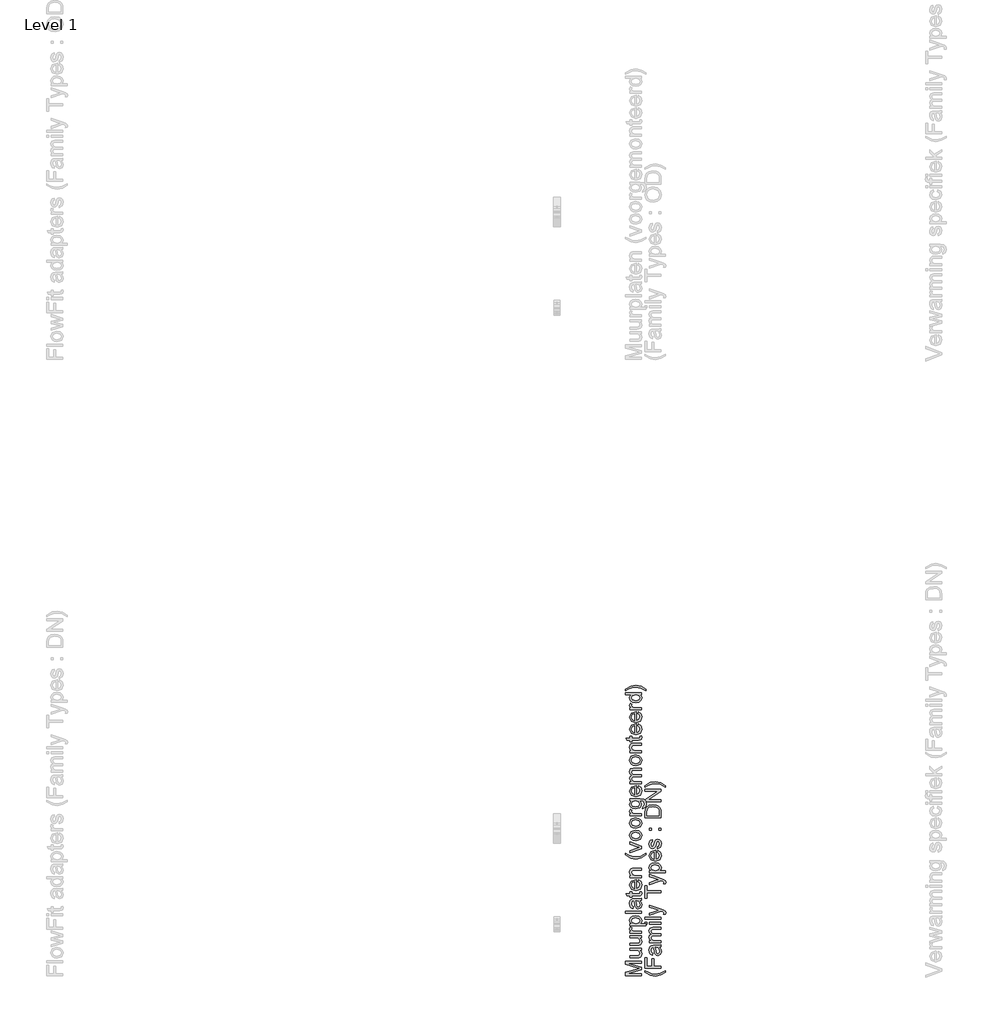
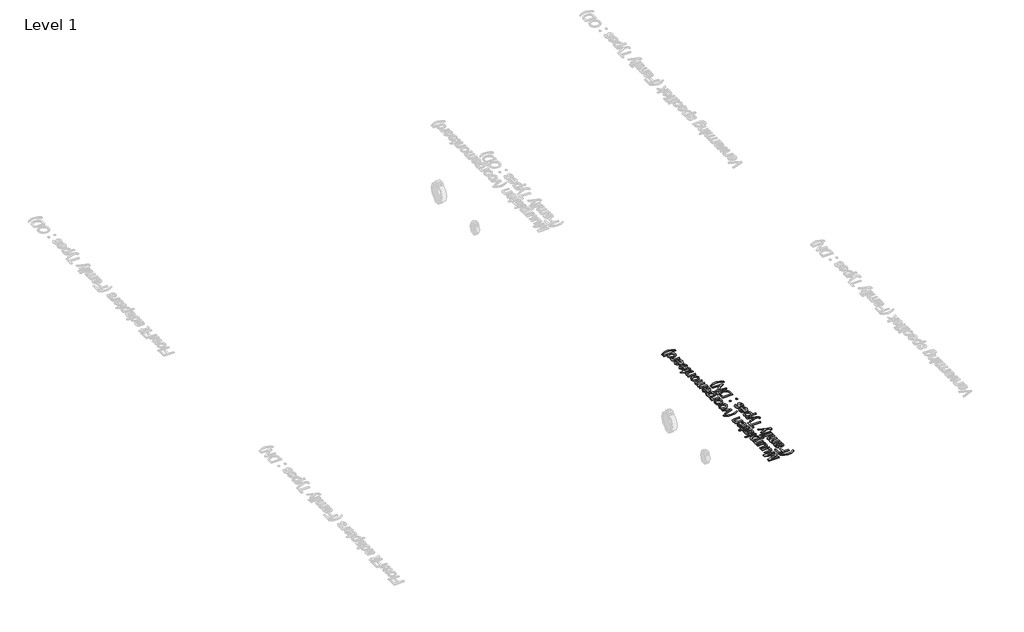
# One storey, part 4 of 11: 1 proxy.
"""IFC4 building model written with IfcOpenShell, lengths in millimetres."""

import ifcopenshell
import ifcopenshell.guid

model = None  # the IFC model being written
_history = None  # IfcOwnerHistory: only IFC2X3 demands one
_inside = {}  # id of a spatial element -> (the spatial element, [elements in it])
_under = {}  # id of a project, library or spatial element -> (it, [spatial elements below it])
_declared = {}  # id of a project -> (the project, [libraries it declares])
_typed = {}  # id of a type object -> (the type object, [elements of that type])
_made_of = {}  # id of a material, layer set ... -> (it, [elements and type objects made of it])


def new_model(schema):
    """Start an empty IFC model of exactly this schema.

    Asked for "IFC4X3", IfcOpenShell would pick the latest addendum, in which some entities
    have other attributes; the version numbers below select the first issue.
    IFC2X3 requires an IfcOwnerHistory on every rooted entity: one is made here for all.
    """
    global model, _history
    if schema == "IFC4X3":
        model = ifcopenshell.file(schema_version=(4, 3, 0, 0))
    else:
        model = ifcopenshell.file(schema=schema)
    _inside.clear()
    _under.clear()
    _declared.clear()
    _typed.clear()
    _made_of.clear()
    _history = None
    if model.schema == "IFC2X3":
        org = make("IfcOrganization", Name="unknown")
        user = make(
            "IfcPersonAndOrganization",
            ThePerson=make("IfcPerson", FamilyName="unknown"),
            TheOrganization=org,
        )
        app = make(
            "IfcApplication",
            ApplicationDeveloper=org,
            Version="unknown",
            ApplicationFullName="unknown",
            ApplicationIdentifier="unknown",
        )
        _history = make(
            "IfcOwnerHistory",
            OwningUser=user,
            OwningApplication=app,
            ChangeAction="ADDED",
            CreationDate=0,
        )
    return model


def make(cls, **values):
    """One entity of the class cls with the attributes given. An attribute that is None is left unset."""
    return model.create_entity(
        cls, **{name: value for name, value in values.items() if value is not None}
    )


def rooted(cls, **values):
    """An entity with a GlobalId (a new one), such as an element, a storey or a relation."""
    return make(cls, GlobalId=ifcopenshell.guid.new(), OwnerHistory=_history, **values)


def si_unit(unit_type, name, prefix=None):
    """IfcSIUnit, for example si_unit("LENGTHUNIT", "METRE", prefix="MILLI")."""
    return make("IfcSIUnit", UnitType=unit_type, Prefix=prefix, Name=name)


def assignment(units):
    """IfcUnitAssignment: the units of a project."""
    return None if units is None else make("IfcUnitAssignment", Units=units)


def point(xyz):
    """IfcCartesianPoint."""
    return None if xyz is None else make("IfcCartesianPoint", Coordinates=xyz)


def direction(xyz):
    """IfcDirection."""
    return None if xyz is None else make("IfcDirection", DirectionRatios=xyz)


def frame(location, z_axis=None, x_axis=None):
    """IfcAxis2Placement3D, a coordinate frame: its origin and axes. An axis left out is left unset."""
    return make(
        "IfcAxis2Placement3D",
        Location=point(location),
        Axis=direction(z_axis),
        RefDirection=direction(x_axis),
    )


def origin():
    """The frame at (0, 0, 0) with its axes left unset."""
    return frame((0.0, 0.0, 0.0))


def origin_with_axes():
    """The frame at (0, 0, 0) with the z axis (0, 0, 1) and the x axis (1, 0, 0) written out."""
    return frame((0.0, 0.0, 0.0), z_axis=(0.0, 0.0, 1.0), x_axis=(1.0, 0.0, 0.0))


def place(relative_to, where):
    """IfcLocalPlacement: puts the frame where relative to a parent placement (None: the world)."""
    return make(
        "IfcLocalPlacement", PlacementRelTo=relative_to, RelativePlacement=where
    )


def context(
    kind, dimensions, precision=None, world=None, true_north=None, identifier=None
):
    """IfcGeometricRepresentationContext, for example the 3D "Model" context."""
    return make(
        "IfcGeometricRepresentationContext",
        ContextIdentifier=identifier,
        ContextType=kind,
        CoordinateSpaceDimension=dimensions,
        Precision=precision,
        WorldCoordinateSystem=world,
        TrueNorth=true_north,
    )


def project(units=None, contexts=None):
    """IfcProject with its units and contexts."""
    return rooted(
        "IfcProject",
        Name="project",
        RepresentationContexts=contexts,
        UnitsInContext=assignment(units),
    )


def spatial(cls, under=None, at=None, **own):
    """A site, building, storey or space (cls), placed at a placement, below another one or the project."""
    s = rooted(cls, ObjectPlacement=at, **own)
    if under is not None:
        _under.setdefault(under.id(), (under, []))[1].append(s)
    return s


def polyline(points):
    """IfcPolyline through the points."""
    return make("IfcPolyline", Points=[point(p) for p in points])


def outline(outer, holes=None, kind="AREA"):
    """IfcArbitraryClosedProfileDef: a profile drawn as a closed curve; with holes, ...WithVoids."""
    if holes is None:
        return make("IfcArbitraryClosedProfileDef", ProfileType=kind, OuterCurve=outer)
    return make(
        "IfcArbitraryProfileDefWithVoids",
        ProfileType=kind,
        OuterCurve=outer,
        InnerCurves=holes,
    )


def extrude(swept, where, along, depth):
    """IfcExtrudedAreaSolid: the profile swept, set in the frame where, extruded along a direction by depth."""
    return make(
        "IfcExtrudedAreaSolid",
        SweptArea=swept,
        Position=where,
        ExtrudedDirection=direction(along),
        Depth=depth,
    )


def shape(context_of_items, identifier, shape_type, items):
    """IfcShapeRepresentation: the items that make up one representation, for example the "Body"."""
    return make(
        "IfcShapeRepresentation",
        ContextOfItems=context_of_items,
        RepresentationIdentifier=identifier,
        RepresentationType=shape_type,
        Items=items,
    )


def made_of(thing, what):
    """Note that an element or type object is made of a material, layer set ...; save() writes the relation."""
    if what is not None:
        _made_of.setdefault(what.id(), (what, []))[1].append(thing)
    return thing


def element(
    cls,
    number,
    at=None,
    inside=None,
    cuts=None,
    type_object=None,
    material=None,
    context=None,
    identifier="Body",
    shape_type=None,
    held_by="IfcProductDefinitionShape",
    body=None,
    shapes=None,
    **own,
):
    """One element of the class cls, such as IfcWall. Its Tag is "e" and its number.

    at: its placement. inside: the storey or other place that contains it. cuts: it is an
    opening in that element (IfcRelVoidsElement). A single representation is given by context,
    identifier, shape_type and body (its items); several are given by shapes. held_by: the class
    of the entity that holds the representations. save() writes the other relations.
    """
    e = rooted(cls, Tag="e%d" % number, ObjectPlacement=at, **own)
    if body is not None:
        shapes = [shape(context, identifier, shape_type, body)]
    if shapes is not None:
        e.Representation = make(held_by, Representations=shapes)
    if inside is not None:
        _inside.setdefault(inside.id(), (inside, []))[1].append(e)
    if cuts is not None:
        rooted(
            "IfcRelVoidsElement", RelatingBuildingElement=cuts, RelatedOpeningElement=e
        )
    if type_object is not None:
        _typed.setdefault(type_object.id(), (type_object, []))[1].append(e)
    return made_of(e, material)


def aggregate(whole, parts):
    """IfcRelAggregates: a whole, such as a stair, and the parts it consists of."""
    return rooted("IfcRelAggregates", RelatingObject=whole, RelatedObjects=parts)


def save(model, path):
    """Write the relations noted so far, then the file.

    IfcRelAggregates (storeys below a building ...), IfcRelContainedInSpatialStructure (elements
    in a storey), IfcRelDefinesByType, IfcRelAssociatesMaterial and IfcRelDeclares: one each for
    every whole, place, type object, material and project.
    """
    for whole, parts in _under.values():
        aggregate(whole, parts)
    for where, things in _inside.values():
        rooted(
            "IfcRelContainedInSpatialStructure",
            RelatedElements=things,
            RelatingStructure=where,
        )
    for kind, things in _typed.values():
        rooted("IfcRelDefinesByType", RelatedObjects=things, RelatingType=kind)
    for what, things in _made_of.values():
        rooted("IfcRelAssociatesMaterial", RelatedObjects=things, RelatingMaterial=what)
    for by, libraries in _declared.values():
        rooted("IfcRelDeclares", RelatingContext=by, RelatedDefinitions=libraries)
    model.write(path)


model = new_model("IFC4")

# Units and contexts
model_context = context("Model", 3, world=origin())
ifc_project = project(units=[si_unit("LENGTHUNIT", "METRE", prefix="MILLI")], contexts=[model_context])

# Site, building, storey
site = spatial("IfcSite", under=ifc_project)
building = spatial("IfcBuilding", under=site)
storey = spatial("IfcBuildingStorey", under=building, Name="Level 1", Elevation=0.0)

# Proxy
placement = place(None, origin())
element("IfcBuildingElementProxy", 1, Name="S", ObjectType="S", at=placement, inside=storey, context=model_context, shape_type="SweptSolid", body=[
    extrude(outline(polyline([(2565.0, 128.4123634), (2514.7718449, 128.4123634), (2514.7718449, 139.2158314), (2550.1743556, 149.4920018), (2557.5687837, 151.5644037), (2549.5612189, 153.8084838), (2514.7718449, 163.912976), (2514.7718449, 174.7164439), (2565.0, 174.7164439), (2565.0, 168.4379245), (2521.0503643, 168.4379245), (2565.0, 155.8195721), (2565.0, 147.3092353), (2521.0503643, 134.6908828), (2565.0, 134.6908828), (2565.0, 128.4123634)])), origin_with_axes(), (0.0, 0.0, 1.0), 3.0),
    extrude(outline(polyline([(2565.0, 208.4634856), (2558.6601669, 208.4634856), (2564.0036529, 203.5461296), (2565.7848149, 197.1327201), (2564.5340161, 191.2282141), (2561.3947564, 187.1569867), (2556.771706, 185.2869199), (2550.9346451, 184.9190379), (2528.1136986, 184.9190379), (2528.1136986, 191.1975573), (2547.9793264, 191.1975573), (2554.3804731, 191.577702), (2558.1390008, 194.0609055), (2559.5062955, 198.7391382), (2558.108344, 203.9814566), (2554.3007653, 207.4456787), (2547.304876, 208.4634856), (2528.1136986, 208.4634856), (2528.1136986, 214.742005), (2565.0, 214.742005), (2565.0, 208.4634856)])), origin_with_axes(), (0.0, 0.0, 1.0), 3.0),
    extrude(outline(polyline([(2565.0, 246.9194168), (2558.6601669, 246.9194168), (2564.0036529, 242.0020608), (2565.7848149, 235.5886514), (2564.5340161, 229.6841453), (2561.3947564, 225.6129179), (2556.771706, 223.7428511), (2550.9346451, 223.3749691), (2528.1136986, 223.3749691), (2528.1136986, 229.6534885), (2547.9793264, 229.6534885), (2554.3804731, 230.0336332), (2558.1390008, 232.5168367), (2559.5062955, 237.1950694), (2558.108344, 242.4373878), (2554.3007653, 245.90161), (2547.304876, 246.9194168), (2528.1136986, 246.9194168), (2528.1136986, 253.1979362), (2565.0, 253.1979362), (2565.0, 246.9194168)])), origin_with_axes(), (0.0, 0.0, 1.0), 3.0),
    extrude(outline(polyline([(2565.0, 261.8309004), (2528.1136986, 261.8309004), (2528.1136986, 267.3246048), (2533.5706149, 267.3246048), (2528.5428943, 271.224154), (2527.3288837, 275.1482286), (2529.2663955, 281.4512734), (2534.8949901, 279.3543461), (2533.6074031, 274.9397621), (2534.8459391, 271.3897009), (2538.2795044, 269.1272266), (2545.6126189, 268.1094197), (2565.0, 268.1094197), (2565.0, 261.8309004)])), origin_with_axes(), (0.0, 0.0, 1.0), 3.0),
    extrude(outline(polyline([(2579.1266686, 285.375348), (2528.1136986, 285.375348), (2528.1136986, 291.6538674), (2534.2695907, 291.6538674), (2529.0640604, 295.994875), (2527.3288837, 301.8564614), (2529.7569049, 309.8149753), (2536.59951, 315.0143741), (2546.2748064, 316.767945), (2556.4467436, 314.7875136), (2563.3751879, 309.0362917), (2565.7848149, 301.096172), (2564.1722655, 295.6331243), (2560.0949067, 291.6538674), (2579.1266686, 291.6538674), (2579.1266686, 285.375348)]), holes=[polyline([(2546.8511549, 291.6538674), (2556.4160868, 294.3700628), (2559.5062955, 300.9612819), (2556.3057222, 307.6873911), (2546.385171, 310.4894256), (2536.7957137, 307.7548361), (2533.6074031, 301.2187993), (2536.9980488, 294.5540038), (2546.8511549, 291.6538674)])]), origin_with_axes(), (0.0, 0.0, 1.0), 3.0),
    extrude(outline(polyline([(2565.0, 323.8312793), (2514.7718449, 323.8312793), (2514.7718449, 330.1097987), (2565.0, 330.1097987), (2565.0, 323.8312793)])), origin_with_axes(), (0.0, 0.0, 1.0), 3.0),
    extrude(outline(polyline([(2560.2911105, 363.0720254), (2564.5462789, 356.9835784), (2565.7848149, 350.2574693), (2562.8049708, 341.1401271), (2555.1898135, 337.9579479), (2550.2234065, 339.1596957), (2546.618163, 342.3173495), (2544.5580238, 346.7135394), (2543.6137933, 352.1459302), (2541.4555523, 363.0352372), (2535.4222876, 361.34298), (2533.6074031, 354.4022731), (2534.8152823, 348.0501773), (2539.1011075, 345.0212822), (2538.3162926, 338.7427628), (2532.184926, 341.4589582), (2528.5919452, 346.9281372), (2527.3288837, 355.2116135), (2528.4447924, 362.8206394), (2531.2468269, 367.1187274), (2535.5081267, 369.0439765), (2541.0018312, 369.3505448), (2548.8131922, 369.3505448), (2559.7208934, 369.6693759), (2565.0, 370.9201747), (2565.0, 364.6416553), (2560.2911105, 363.0720254)]), holes=[polyline([(2547.7340717, 363.0720254), (2549.6593208, 352.9430078), (2550.6771277, 347.5412739), (2552.3325966, 345.0948586), (2554.7483551, 344.2364673), (2558.1451322, 346.1065341), (2559.5062955, 351.5941072), (2558.0041107, 357.946203), (2554.3682103, 362.0419558), (2549.512168, 363.0352372), (2547.7340717, 363.0720254)])]), origin_with_axes(), (0.0, 0.0, 1.0), 3.0),
    extrude(outline(polyline([(2559.7638129, 391.3253627), (2565.183941, 392.1101776), (2565.7848149, 387.4135508), (2564.7424826, 382.1528382), (2562.0078931, 379.5286133), (2554.8832451, 378.7683239), (2534.392218, 378.7683239), (2534.392218, 374.0594343), (2528.1136986, 374.0594343), (2528.1136986, 378.7683239), (2519.1496407, 378.7683239), (2515.458558, 385.0468433), (2528.1136986, 385.0468433), (2528.1136986, 391.3253627), (2534.392218, 391.3253627), (2534.392218, 385.0468433), (2554.6993041, 385.0468433), (2557.9366657, 385.3779371), (2559.5062955, 388.5907732), (2559.7638129, 391.3253627)])), origin_with_axes(), (0.0, 0.0, 1.0), 3.0),
    extrude(outline(polyline([(2554.0125911, 423.4291981), (2554.797406, 429.5850902), (2562.9030726, 423.8277369), (2565.7848149, 413.1039768), (2560.8122766, 400.0686914), (2546.8634176, 395.2494373), (2532.4547062, 400.1177423), (2527.3288837, 412.7483575), (2532.4424434, 425.017222), (2546.8266294, 429.7812939), (2548.5188866, 429.7445057), (2548.5188866, 401.5279567), (2556.6736042, 405.1393316), (2559.5062955, 413.2266041), (2558.1941831, 419.3824962), (2554.0125911, 423.4291981)]), holes=[polyline([(2542.2403672, 401.5279567), (2542.2403672, 423.5027745), (2536.550459, 420.9889142), (2533.6074031, 412.723832), (2535.9557165, 404.9921788), (2542.2403672, 401.5279567)])]), origin_with_axes(), (0.0, 0.0, 1.0), 3.0),
    extrude(outline(polyline([(2565.0, 436.0598133), (2528.1136986, 436.0598133), (2528.1136986, 442.3383327), (2533.2640465, 442.3383327), (2528.8126744, 447.1391927), (2527.3288837, 453.6936236), (2528.5245002, 459.6226551), (2531.6637599, 463.669357), (2536.2806789, 465.5516865), (2542.3507318, 465.8827803), (2565.0, 465.8827803), (2565.0, 459.604261), (2543.1968604, 459.604261), (2537.6418423, 458.8807597), (2534.7049177, 456.3239798), (2533.6074031, 452.0136291), (2536.0722124, 445.2016808), (2545.4286779, 442.3383327), (2565.0, 442.3383327), (2565.0, 436.0598133)])), origin_with_axes(), (0.0, 0.0, 1.0), 3.0),
    extrude(outline(polyline([(2579.1266686, 506.6931563), (2564.3991261, 497.7781493), (2546.9124686, 494.1361176), (2531.6453658, 496.8584443), (2514.7718449, 506.6931563), (2514.7718449, 511.4020459), (2524.7169215, 505.5281967), (2534.3554298, 501.9965295), (2546.9492568, 500.414637), (2563.0440941, 503.1614892), (2579.1266686, 511.4020459), (2579.1266686, 506.6931563)])), origin_with_axes(), (0.0, 0.0, 1.0), 3.0),
    extrude(outline(polyline([(2565.0, 526.7304623), (2528.1136986, 513.7564907), (2528.1136986, 520.402892), (2550.2111438, 528.263304), (2557.6423601, 530.6300115), (2550.6280767, 532.9476681), (2528.1136986, 540.857131), (2528.1136986, 547.5035323), (2565.0, 534.6889762), (2565.0, 526.7304623)])), origin_with_axes(), (0.0, 0.0, 1.0), 3.0),
    extrude(outline(polyline([(2546.5568493, 551.427607), (2537.6633021, 552.7857047), (2531.4123738, 556.8599978), (2527.3288837, 567.9209831), (2532.301422, 579.7851774), (2546.0418145, 584.3898337), (2557.2131644, 582.35422), (2563.5346034, 576.4251885), (2565.7848149, 567.9209831), (2560.8306707, 555.9832123), (2546.5568493, 551.427607)]), holes=[polyline([(2546.5445866, 557.7061263), (2556.2750653, 560.6123941), (2559.5062955, 567.9209831), (2556.2566712, 575.2050466), (2546.3483828, 578.1113143), (2536.8386333, 575.1866525), (2533.6074031, 567.9209831), (2536.8263705, 560.6123941), (2546.5445866, 557.7061263)])]), origin_with_axes(), (0.0, 0.0, 1.0), 3.0),
    extrude(outline(polyline([(2546.5568493, 589.8835382), (2537.6633021, 591.2416359), (2531.4123738, 595.315929), (2527.3288837, 606.3769143), (2532.301422, 618.2411086), (2546.0418145, 622.845765), (2557.2131644, 620.8101512), (2563.5346034, 614.8811198), (2565.7848149, 606.3769143), (2560.8306707, 594.4391436), (2546.5568493, 589.8835382)]), holes=[polyline([(2546.5445866, 596.1620576), (2556.2750653, 599.0683253), (2559.5062955, 606.3769143), (2556.2566712, 613.6609778), (2546.3483828, 616.5672456), (2536.8386333, 613.6425837), (2533.6074031, 606.3769143), (2536.8263705, 599.0683253), (2546.5445866, 596.1620576)])]), origin_with_axes(), (0.0, 0.0, 1.0), 3.0),
    extrude(outline(polyline([(2565.0, 629.9090993), (2528.1136986, 629.9090993), (2528.1136986, 635.4028037), (2533.5706149, 635.4028037), (2528.5428943, 639.3023529), (2527.3288837, 643.2264275), (2529.2663955, 649.5294723), (2534.8949901, 647.432545), (2533.6074031, 643.017961), (2534.8459391, 639.4678998), (2538.2795044, 637.2054255), (2545.6126189, 636.1876186), (2565.0, 636.1876186), (2565.0, 629.9090993)])), origin_with_axes(), (0.0, 0.0, 1.0), 3.0),
    extrude(outline(polyline([(2568.1392597, 651.8839171), (2568.9240746, 658.1624365), (2572.2350126, 660.1980502), (2573.6329642, 666.2926286), (2572.0510716, 672.7183008), (2567.6119622, 675.7839841), (2560.2911105, 676.2131797), (2565.0, 666.4029932), (2563.6296396, 659.9298029), (2559.5185583, 655.1028846), (2546.3729083, 651.0991022), (2536.6424295, 652.8955926), (2529.7569049, 658.0949915), (2527.3288837, 666.0964249), (2532.8225882, 676.2131797), (2528.1136986, 676.2131797), (2528.1136986, 682.4916991), (2559.9600167, 682.4916991), (2572.1553048, 680.7749165), (2577.8268189, 675.3363943), (2579.9114835, 666.1700013), (2576.9745589, 655.728284), (2568.1392597, 651.8839171)]), holes=[polyline([(2545.9437126, 657.3776216), (2555.6619287, 660.0570288), (2558.7214806, 666.7831379), (2555.6803228, 673.4969843), (2546.1276536, 676.2131797), (2536.7650569, 673.4172766), (2533.6074031, 666.685036), (2536.7160059, 660.093817), (2545.9437126, 657.3776216)])]), origin_with_axes(), (0.0, 0.0, 1.0), 3.0),
    extrude(outline(polyline([(2554.0125911, 717.7347942), (2554.797406, 723.8906863), (2562.9030726, 718.1333331), (2565.7848149, 707.4095729), (2560.8122766, 694.3742875), (2546.8634176, 689.5550334), (2532.4547062, 694.4233385), (2527.3288837, 707.0539536), (2532.4424434, 719.3228182), (2546.8266294, 724.08689), (2548.5188866, 724.0501018), (2548.5188866, 695.8335528), (2556.6736042, 699.4449277), (2559.5062955, 707.5322002), (2558.1941831, 713.6880923), (2554.0125911, 717.7347942)]), holes=[polyline([(2542.2403672, 695.8335528), (2542.2403672, 717.8083706), (2536.550459, 715.2945103), (2533.6074031, 707.0294282), (2535.9557165, 699.2977749), (2542.2403672, 695.8335528)])]), origin_with_axes(), (0.0, 0.0, 1.0), 3.0),
    extrude(outline(polyline([(2565.0, 730.3654094), (2528.1136986, 730.3654094), (2528.1136986, 736.6439288), (2534.1837515, 736.6439288), (2529.2112132, 740.9604109), (2527.3288837, 747.1040402), (2529.2480014, 753.3948223), (2534.6252099, 756.8529131), (2529.1529653, 761.751875), (2527.3288837, 767.9384239), (2530.3639102, 776.1483237), (2539.7142442, 779.0239346), (2565.0, 779.0239346), (2565.0, 772.7454153), (2542.4120455, 772.7454153), (2537.1697271, 772.1629354), (2534.5884217, 770.0537453), (2533.6074031, 766.4668959), (2536.1212634, 760.2926097), (2544.1778791, 757.8339317), (2565.0, 757.8339317), (2565.0, 751.5554123), (2541.7130697, 751.5554123), (2535.6307541, 750.1022785), (2533.6074031, 745.3382066), (2534.9563037, 740.6906307), (2538.9049038, 737.600422), (2546.3974338, 736.6439288), (2565.0, 736.6439288), (2565.0, 730.3654094)])), origin_with_axes(), (0.0, 0.0, 1.0), 3.0),
    extrude(outline(polyline([(2546.5568493, 786.8720839), (2537.6633021, 788.2301816), (2531.4123738, 792.3044747), (2527.3288837, 803.36546), (2532.301422, 815.2296543), (2546.0418145, 819.8343106), (2557.2131644, 817.7986969), (2563.5346034, 811.8696654), (2565.7848149, 803.36546), (2560.8306707, 791.4276892), (2546.5568493, 786.8720839)]), holes=[polyline([(2546.5445866, 793.1506033), (2556.2750653, 796.056871), (2559.5062955, 803.36546), (2556.2566712, 810.6495235), (2546.3483828, 813.5557913), (2536.8386333, 810.6311294), (2533.6074031, 803.36546), (2536.8263705, 796.056871), (2546.5445866, 793.1506033)])]), origin_with_axes(), (0.0, 0.0, 1.0), 3.0),
    extrude(outline(polyline([(2565.0, 826.8976449), (2528.1136986, 826.8976449), (2528.1136986, 833.1761643), (2533.2640465, 833.1761643), (2528.8126744, 837.9770244), (2527.3288837, 844.5314552), (2528.5245002, 850.4604867), (2531.6637599, 854.5071887), (2536.2806789, 856.3895182), (2542.3507318, 856.720612), (2565.0, 856.720612), (2565.0, 850.4420926), (2543.1968604, 850.4420926), (2537.6418423, 849.7185914), (2534.7049177, 847.1618115), (2533.6074031, 842.8514608), (2536.0722124, 836.0395125), (2545.4286779, 833.1761643), (2565.0, 833.1761643), (2565.0, 826.8976449)])), origin_with_axes(), (0.0, 0.0, 1.0), 3.0),
    extrude(outline(polyline([(2559.7638129, 878.6954299), (2565.183941, 879.4802448), (2565.7848149, 874.783618), (2564.7424826, 869.5229055), (2562.0078931, 866.8986806), (2554.8832451, 866.1383911), (2534.392218, 866.1383911), (2534.392218, 861.4295016), (2528.1136986, 861.4295016), (2528.1136986, 866.1383911), (2519.1496407, 866.1383911), (2515.458558, 872.4169105), (2528.1136986, 872.4169105), (2528.1136986, 878.6954299), (2534.392218, 878.6954299), (2534.392218, 872.4169105), (2554.6993041, 872.4169105), (2557.9366657, 872.7480043), (2559.5062955, 875.9608404), (2559.7638129, 878.6954299)])), origin_with_axes(), (0.0, 0.0, 1.0), 3.0),
    extrude(outline(polyline([(2554.0125911, 910.7992653), (2554.797406, 916.9551574), (2562.9030726, 911.1978041), (2565.7848149, 900.474044), (2560.8122766, 887.4387586), (2546.8634176, 882.6195045), (2532.4547062, 887.4878096), (2527.3288837, 900.1184247), (2532.4424434, 912.3872893), (2546.8266294, 917.1513611), (2548.5188866, 917.1145729), (2548.5188866, 888.8980239), (2556.6736042, 892.5093988), (2559.5062955, 900.5966713), (2558.1941831, 906.7525634), (2554.0125911, 910.7992653)]), holes=[polyline([(2542.2403672, 888.8980239), (2542.2403672, 910.8728417), (2536.550459, 908.3589814), (2533.6074031, 900.0938993), (2535.9557165, 892.362246), (2542.2403672, 888.8980239)])]), origin_with_axes(), (0.0, 0.0, 1.0), 3.0),
    extrude(outline(polyline([(2554.0125911, 949.2551965), (2554.797406, 955.4110886), (2562.9030726, 949.6537354), (2565.7848149, 938.9299752), (2560.8122766, 925.8946898), (2546.8634176, 921.0754357), (2532.4547062, 925.9437408), (2527.3288837, 938.5743559), (2532.4424434, 950.8432205), (2546.8266294, 955.6072923), (2548.5188866, 955.5705041), (2548.5188866, 927.3539551), (2556.6736042, 930.96533), (2559.5062955, 939.0526025), (2558.1941831, 945.2084946), (2554.0125911, 949.2551965)]), holes=[polyline([(2542.2403672, 927.3539551), (2542.2403672, 949.3287729), (2536.550459, 946.8149126), (2533.6074031, 938.5498305), (2535.9557165, 930.8181772), (2542.2403672, 927.3539551)])]), origin_with_axes(), (0.0, 0.0, 1.0), 3.0),
    extrude(outline(polyline([(2565.0, 961.8858117), (2528.1136986, 961.8858117), (2528.1136986, 967.3795162), (2533.5706149, 967.3795162), (2528.5428943, 971.2790653), (2527.3288837, 975.2031399), (2529.2663955, 981.5061848), (2534.8949901, 979.4092574), (2533.6074031, 974.9946735), (2534.8459391, 971.4446122), (2538.2795044, 969.1821379), (2545.6126189, 968.1643311), (2565.0, 968.1643311), (2565.0, 961.8858117)])), origin_with_axes(), (0.0, 0.0, 1.0), 3.0),
    extrude(outline(polyline([(2565.0, 1008.1898922), (2559.0770999, 1008.1898922), (2564.1078862, 1004.0358913), (2565.7848149, 998.2938665), (2563.3567938, 990.5192937), (2556.5816337, 985.0255892), (2546.5936375, 983.0758146), (2536.59951, 984.872305), (2529.7201167, 990.2556449), (2527.3288837, 998.269341), (2529.039535, 1004.0573511), (2533.4847757, 1008.1898922), (2514.7718449, 1008.1898922), (2514.7718449, 1014.4684116), (2565.0, 1014.4684116), (2565.0, 1008.1898922)]), holes=[polyline([(2546.569112, 989.354334), (2556.2873281, 992.1870254), (2559.5062955, 998.870215), (2556.4344809, 1005.4736968), (2547.0473586, 1008.1898922), (2536.8570274, 1005.4246458), (2533.6074031, 998.6126976), (2536.7282687, 992.0030844), (2546.569112, 989.354334)])]), origin_with_axes(), (0.0, 0.0, 1.0), 3.0),
    extrude(outline(polyline([(2579.1266686, 1025.4558205), (2579.1266686, 1020.7469309), (2563.0440941, 1028.9874876), (2546.9492568, 1031.7343399), (2534.4657944, 1030.1524473), (2524.8150234, 1026.6575683), (2514.7718449, 1020.7469309), (2514.7718449, 1025.4558205), (2531.6453658, 1035.2905325), (2546.9124686, 1038.0128592), (2564.3991261, 1034.3524334), (2579.1266686, 1025.4558205)])), origin_with_axes(), (0.0, 0.0, 1.0), 3.0),
    extrude(outline(polyline([(2640.1140775, 140.1845873), (2625.386535, 131.2695803), (2607.8998775, 127.6275485), (2592.6327747, 130.3498753), (2575.7592538, 140.1845873), (2575.7592538, 144.8934768), (2585.7043305, 139.0196276), (2595.3428387, 135.4879605), (2607.9366657, 133.9060679), (2624.031503, 136.6529201), (2640.1140775, 144.8934768), (2640.1140775, 140.1845873)])), origin_with_axes(), (0.0, 0.0, 1.0), 3.0),
    extrude(outline(polyline([(2625.9874089, 151.9568111), (2575.7592538, 151.9568111), (2575.7592538, 185.7038528), (2582.0377732, 185.7038528), (2582.0377732, 158.2353305), (2596.9492568, 158.2353305), (2596.9492568, 181.7797782), (2603.2277762, 181.7797782), (2603.2277762, 158.2353305), (2625.9874089, 158.2353305), (2625.9874089, 151.9568111)])), origin_with_axes(), (0.0, 0.0, 1.0), 3.0),
    extrude(outline(polyline([(2621.2785194, 217.0964497), (2625.5336878, 211.0080027), (2626.7722238, 204.2818936), (2623.7923797, 195.1645515), (2616.1772224, 191.9823722), (2611.2108154, 193.1841201), (2607.6055719, 196.3417738), (2605.5454327, 200.7379637), (2604.6012023, 206.1703545), (2602.4429612, 217.0596615), (2596.4096965, 215.3674044), (2594.594812, 208.4266974), (2595.8026912, 202.0746016), (2600.0885165, 199.0457065), (2599.3037015, 192.7671871), (2593.172335, 195.4833825), (2589.5793541, 200.9525615), (2588.3162926, 209.2360378), (2589.4322013, 216.8450637), (2592.2342359, 221.1431517), (2596.4955356, 223.0684008), (2601.9892401, 223.3749691), (2609.8006011, 223.3749691), (2620.7083023, 223.6938002), (2625.9874089, 224.944599), (2625.9874089, 218.6660796), (2621.2785194, 217.0964497)]), holes=[polyline([(2608.7214806, 217.0964497), (2610.6467297, 206.9674321), (2611.6645366, 201.5656982), (2613.3200056, 199.1192829), (2615.735764, 198.2608916), (2619.1325411, 200.1309584), (2620.4937045, 205.6185315), (2618.9915196, 211.9706273), (2615.3556193, 216.0663802), (2610.4995769, 217.0596615), (2608.7214806, 217.0964497)])]), origin_with_axes(), (0.0, 0.0, 1.0), 3.0),
    extrude(outline(polyline([(2625.9874089, 232.0079333), (2589.1011075, 232.0079333), (2589.1011075, 238.2864527), (2595.1711605, 238.2864527), (2590.1986222, 242.6029347), (2588.3162926, 248.7465641), (2590.2354104, 255.0373462), (2595.6126189, 258.4954369), (2590.1403742, 263.3943988), (2588.3162926, 269.5809477), (2591.3513191, 277.7908476), (2600.7016531, 280.6664585), (2625.9874089, 280.6664585), (2625.9874089, 274.3879391), (2603.3994544, 274.3879391), (2598.157136, 273.8054593), (2595.5758307, 271.6962692), (2594.594812, 268.1094197), (2597.1086723, 261.9351336), (2605.165288, 259.4764556), (2625.9874089, 259.4764556), (2625.9874089, 253.1979362), (2602.7004786, 253.1979362), (2596.618163, 251.7448023), (2594.594812, 246.9807305), (2595.9437126, 242.3331546), (2599.8923127, 239.2429458), (2607.3848427, 238.2864527), (2625.9874089, 238.2864527), (2625.9874089, 232.0079333)])), origin_with_axes(), (0.0, 0.0, 1.0), 3.0),
    extrude(outline(polyline([(2582.0377732, 290.0842376), (2575.7592538, 290.0842376), (2575.7592538, 296.362757), (2582.0377732, 296.362757), (2582.0377732, 290.0842376)])), origin_with_axes(), (0.0, 0.0, 1.0), 3.0),
    extrude(outline(polyline([(2625.9874089, 290.0842376), (2589.1011075, 290.0842376), (2589.1011075, 296.362757), (2625.9874089, 296.362757), (2625.9874089, 290.0842376)])), origin_with_axes(), (0.0, 0.0, 1.0), 3.0),
    extrude(outline(polyline([(2625.9874089, 305.780536), (2575.7592538, 305.780536), (2575.7592538, 312.0590554), (2625.9874089, 312.0590554), (2625.9874089, 305.780536)])), origin_with_axes(), (0.0, 0.0, 1.0), 3.0),
    extrude(outline(polyline([(2640.1140775, 321.4768345), (2634.0685501, 320.6920196), (2634.6203731, 323.8803302), (2633.9275287, 326.8601744), (2631.9961482, 328.6873216), (2627.3730978, 330.4041043), (2625.8525189, 330.8946136), (2589.1011075, 317.5527599), (2589.1011075, 324.1746358), (2609.5798719, 331.2502328), (2617.7713777, 333.7150422), (2610.5363651, 336.1798516), (2589.1011075, 343.4516523), (2589.1011075, 350.0244773), (2626.8703257, 337.1853957), (2635.0618315, 333.8499323), (2639.4886781, 330.2079005), (2640.8988925, 325.31507), (2640.1140775, 321.4768345)])), origin_with_axes(), (0.0, 0.0, 1.0), 3.0),
    extrude(outline(polyline([(2625.9874089, 388.186103), (2582.0377732, 388.186103), (2582.0377732, 371.7049896), (2575.7592538, 371.7049896), (2575.7592538, 410.9457357), (2582.0377732, 410.9457357), (2582.0377732, 394.4646223), (2625.9874089, 394.4646223), (2625.9874089, 388.186103)])), origin_with_axes(), (0.0, 0.0, 1.0), 3.0),
    extrude(outline(polyline([(2640.1140775, 417.2242551), (2634.0685501, 416.4394402), (2634.6203731, 419.6277508), (2633.9275287, 422.607595), (2631.9961482, 424.4347422), (2627.3730978, 426.1515249), (2625.8525189, 426.6420342), (2589.1011075, 413.3001805), (2589.1011075, 419.9220564), (2609.5798719, 426.9976535), (2617.7713777, 429.4624628), (2610.5363651, 431.9272722), (2589.1011075, 439.199073), (2589.1011075, 445.7718979), (2626.8703257, 432.9328163), (2635.0618315, 429.5973529), (2639.4886781, 425.9553211), (2640.8988925, 421.0624906), (2640.1140775, 417.2242551)])), origin_with_axes(), (0.0, 0.0, 1.0), 3.0),
    extrude(outline(polyline([(2640.1140775, 450.9712968), (2589.1011075, 450.9712968), (2589.1011075, 457.2498162), (2595.2569996, 457.2498162), (2590.0514694, 461.5908237), (2588.3162926, 467.4524102), (2590.7443138, 475.410924), (2597.5869189, 480.6103229), (2607.2622154, 482.3638937), (2617.4341525, 480.3834623), (2624.3625968, 474.6322405), (2626.7722238, 466.6921207), (2625.1596744, 461.2290731), (2621.0823157, 457.2498162), (2640.1140775, 457.2498162), (2640.1140775, 450.9712968)]), holes=[polyline([(2607.8385638, 457.2498162), (2617.4034957, 459.9660116), (2620.4937045, 466.5572307), (2617.2931311, 473.2833398), (2607.37258, 476.0853743), (2597.7831226, 473.3507848), (2594.594812, 466.8147481), (2597.9854577, 460.1499526), (2607.8385638, 457.2498162)])]), origin_with_axes(), (0.0, 0.0, 1.0), 3.0),
    extrude(outline(polyline([(2615.0, 515.2525441), (2615.7848149, 521.4084361), (2623.8904816, 515.6510829), (2626.7722238, 504.9273228), (2621.7996855, 491.8920374), (2607.8508266, 487.0727833), (2593.4421151, 491.9410883), (2588.3162926, 504.5717035), (2593.4298523, 516.840568), (2607.8140384, 521.6046399), (2609.5062955, 521.5678517), (2609.5062955, 493.3513027), (2617.6610131, 496.9626776), (2620.4937045, 505.0499501), (2619.181592, 511.2058422), (2615.0, 515.2525441)]), holes=[polyline([(2603.2277762, 493.3513027), (2603.2277762, 515.3261205), (2597.537868, 512.8122602), (2594.594812, 504.547178), (2596.9431254, 496.8155248), (2603.2277762, 493.3513027)])]), origin_with_axes(), (0.0, 0.0, 1.0), 3.0),
    extrude(outline(polyline([(2615.0, 525.5287145), (2614.2151851, 531.8072339), (2618.8750237, 534.7135016), (2620.4937045, 541.3721658), (2619.0099137, 547.7733125), (2615.5272975, 549.8579771), (2612.7068689, 547.7610497), (2610.9165099, 541.2985894), (2607.8446952, 531.8440221), (2604.2578457, 527.7176124), (2599.1933369, 526.3135294), (2594.5151042, 527.4417009), (2590.9405175, 530.5196469), (2589.0827134, 534.5111665), (2588.3162926, 539.9129005), (2589.5486973, 547.5525833), (2592.8841607, 552.4086256), (2598.5188866, 554.5668666), (2599.3037015, 548.2883473), (2595.8394794, 545.9277711), (2594.594812, 540.4034098), (2595.7842971, 534.3946706), (2598.5556748, 532.5920488), (2600.3828221, 533.3400755), (2601.7685109, 535.6822576), (2603.1051488, 541.0901229), (2606.0604675, 550.3055669), (2609.4081937, 554.5852607), (2614.8651099, 556.1364965), (2620.8738492, 554.3154806), (2625.2332508, 549.0608995), (2626.7722238, 541.2863266), (2623.8046424, 530.3357059), (2615.0, 525.5287145)])), origin_with_axes(), (0.0, 0.0, 1.0), 3.0),
    extrude(outline(polyline([(2595.3796269, 584.3898337), (2589.1011075, 584.3898337), (2589.1011075, 590.6683531), (2595.3796269, 590.6683531), (2595.3796269, 584.3898337)])), origin_with_axes(), (0.0, 0.0, 1.0), 3.0),
    extrude(outline(polyline([(2625.9874089, 584.3898337), (2619.7088895, 584.3898337), (2619.7088895, 590.6683531), (2625.9874089, 590.6683531), (2625.9874089, 584.3898337)])), origin_with_axes(), (0.0, 0.0, 1.0), 3.0),
    extrude(outline(polyline([(2625.9874089, 622.845765), (2575.7592538, 622.845765), (2575.7592538, 640.1730069), (2576.4827551, 649.1370649), (2580.0757359, 656.5192302), (2588.6596491, 662.4666558), (2600.6035513, 664.4409559), (2610.7387002, 663.104318), (2618.0534206, 659.6707527), (2622.6090259, 655.0844905), (2625.1290176, 649.0818826), (2625.9874089, 641.0068728), (2625.9874089, 622.845765)]), holes=[polyline([(2619.7088895, 629.1242843), (2619.7088895, 640.2343206), (2618.8014473, 648.3154618), (2616.2385361, 652.9753004), (2610.0029362, 656.7951417), (2600.5054494, 658.1624365), (2588.6105982, 655.4830293), (2583.0433174, 648.9653866), (2582.0377732, 640.0626423), (2582.0377732, 629.1242843), (2619.7088895, 629.1242843)])]), origin_with_axes(), (0.0, 0.0, 1.0), 3.0),
    extrude(outline(polyline([(2625.9874089, 673.07392), (2575.7592538, 673.07392), (2575.7592538, 679.7938978), (2615.551823, 706.0361468), (2575.7592538, 706.0361468), (2575.7592538, 712.3146662), (2625.9874089, 712.3146662), (2625.9874089, 705.5946884), (2586.182577, 679.3524394), (2625.9874089, 679.3524394), (2625.9874089, 673.07392)])), origin_with_axes(), (0.0, 0.0, 1.0), 3.0),
    extrude(outline(polyline([(2640.1140775, 724.08689), (2640.1140775, 719.3780005), (2624.031503, 727.6185572), (2607.9366657, 730.3654094), (2595.4532033, 728.7835168), (2585.8024323, 725.2886379), (2575.7592538, 719.3780005), (2575.7592538, 724.08689), (2592.6327747, 733.921602), (2607.8998775, 736.6439288), (2625.386535, 732.9835029), (2640.1140775, 724.08689)])), origin_with_axes(), (0.0, 0.0, 1.0), 3.0),
])

save(model, "model.ifc")
